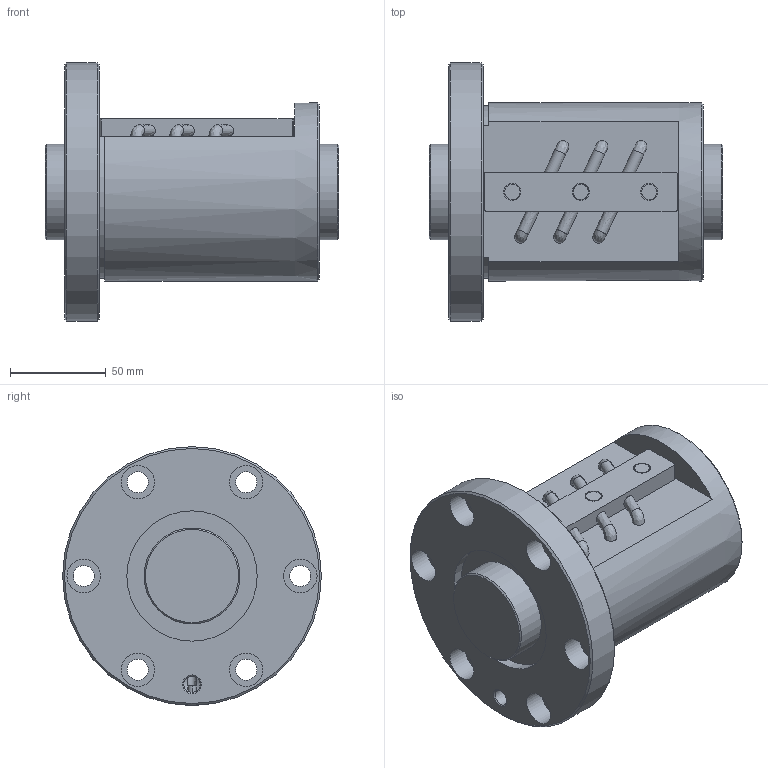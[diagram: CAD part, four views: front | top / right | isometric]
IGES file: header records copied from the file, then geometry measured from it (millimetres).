
Start section: Data from Parasolid IGES Translator 26.0.171, Copyright(c) 2006 Siemens PLM Software. All Rights Reserved.
Global section: file name: BNF5010V-7.5RRG1+153LC0_000_rev.igs; native system: By Siemens PLM Incorporated; preprocessor: XPlus GENERIC/IGES 26.0.171; author: Noname; organization: Noname; date: 20240806.090512; units: millimetre
Bounding box: 153 x 135 x 135 mm (x, y, z)
Surface area: 125118.7 mm2 (no closed solid volume)
Topology: 0 solids, 0 shells, 87 faces, 434 edges, 389 vertices
Faces by surface type: revolution 57, extrusion 30
